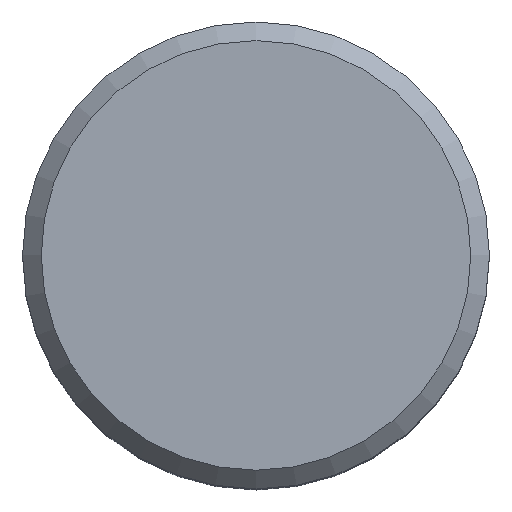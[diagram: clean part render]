
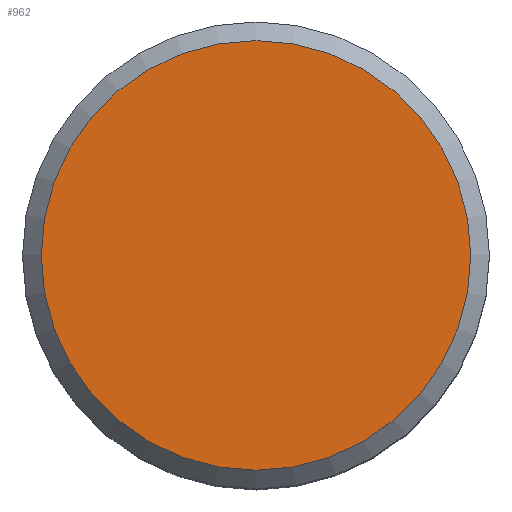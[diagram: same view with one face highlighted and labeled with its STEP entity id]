
A CAD part, top view. The second image highlights one B-rep face of the part: STEP entity #962.
In plain terms, the highlighted planar face has unit normal (0, 0, 1).
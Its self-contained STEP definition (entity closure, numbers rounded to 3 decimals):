
#46=PLANE('',#1076);
#108=FACE_OUTER_BOUND('',#164,.T.);
#164=EDGE_LOOP('',(#883));
#201=CIRCLE('',#1075,23.);
#445=VERTEX_POINT('',#10871);
#591=EDGE_CURVE('',#445,#445,#201,.T.);
#883=ORIENTED_EDGE('',*,*,#591,.F.);
#962=ADVANCED_FACE('',(#108),#46,.T.);
#1075=AXIS2_PLACEMENT_3D('',#10873,#1288,#1289);
#1076=AXIS2_PLACEMENT_3D('',#10874,#1290,#1291);
#1288=DIRECTION('center_axis',(0.,0.,-1.));
#1289=DIRECTION('ref_axis',(-1.,0.,0.));
#1290=DIRECTION('center_axis',(0.,0.,1.));
#1291=DIRECTION('ref_axis',(1.,0.,0.));
#10871=CARTESIAN_POINT('',(23.,0.,55.));
#10873=CARTESIAN_POINT('Origin',(0.,0.,55.));
#10874=CARTESIAN_POINT('Origin',(0.,0.,55.));
